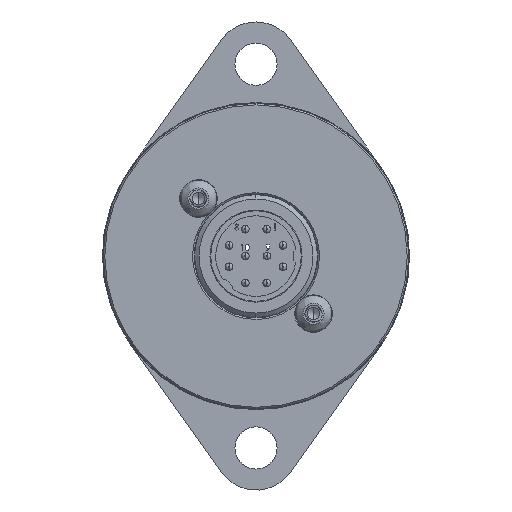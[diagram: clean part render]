
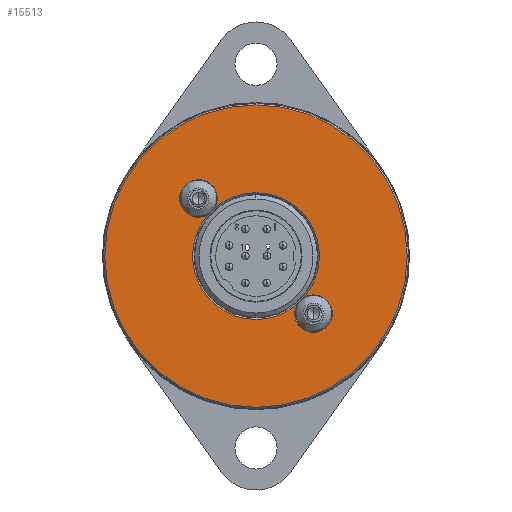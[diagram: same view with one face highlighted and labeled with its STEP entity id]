
A CAD part, front view. The second image highlights one B-rep face of the part: STEP entity #15513.
In plain terms, the highlighted planar face has unit normal (0, -1, 0).
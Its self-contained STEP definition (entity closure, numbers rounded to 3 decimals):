
#428 = CARTESIAN_POINT ( 'NONE',  ( -5.401, -177.613, 6.236 ) ) ;
#678 = ORIENTED_EDGE ( 'NONE', *, *, #11040, .F. ) ;
#1073 = AXIS2_PLACEMENT_3D ( 'NONE', #22959, #16575, #24372 ) ;
#1741 = EDGE_CURVE ( 'NONE', #20372, #18137, #21229, .T. ) ;
#1830 = DIRECTION ( 'NONE',  ( 0., 1., 0. ) ) ;
#1910 = DIRECTION ( 'NONE',  ( 0., 0., 1. ) ) ;
#3125 = CIRCLE ( 'NONE', #13014, 2.45 ) ;
#3166 = AXIS2_PLACEMENT_3D ( 'NONE', #5115, #20796, #18866 ) ;
#3192 = AXIS2_PLACEMENT_3D ( 'NONE', #15243, #11290, #24869 ) ;
#3905 = CARTESIAN_POINT ( 'NONE',  ( 0., -177.613, 0. ) ) ;
#4214 = CARTESIAN_POINT ( 'NONE',  ( 7.5, -177.613, -7.5 ) ) ;
#4444 = VERTEX_POINT ( 'NONE', #16945 ) ;
#4457 = EDGE_CURVE ( 'NONE', #13075, #12720, #8932, .T. ) ;
#4626 = DIRECTION ( 'NONE',  ( 0., 0., 1. ) ) ;
#4752 = CARTESIAN_POINT ( 'NONE',  ( -7.5, -177.613, 7.5 ) ) ;
#5012 = DIRECTION ( 'NONE',  ( 0., -1., 0. ) ) ;
#5115 = CARTESIAN_POINT ( 'NONE',  ( -8.05, -177.613, 0. ) ) ;
#5359 = EDGE_LOOP ( 'NONE', ( #17153, #5616, #15852, #22651, #20505, #7883, #16744, #6893, #11399, #678 ) ) ;
#5577 = EDGE_CURVE ( 'NONE', #22530, #21531, #7407, .T. ) ;
#5616 = ORIENTED_EDGE ( 'NONE', *, *, #15325, .T. ) ;
#5794 = CARTESIAN_POINT ( 'NONE',  ( 7.5, -177.613, -7.5 ) ) ;
#6070 = EDGE_CURVE ( 'NONE', #21531, #21922, #16548, .T. ) ;
#6144 = EDGE_LOOP ( 'NONE', ( #23673, #13749 ) ) ;
#6210 = VERTEX_POINT ( 'NONE', #19436 ) ;
#6476 = EDGE_CURVE ( 'NONE', #4444, #21922, #20596, .T. ) ;
#6893 = ORIENTED_EDGE ( 'NONE', *, *, #6070, .T. ) ;
#7407 = CIRCLE ( 'NONE', #20518, 8.25 ) ;
#7883 = ORIENTED_EDGE ( 'NONE', *, *, #16877, .F. ) ;
#7930 = AXIS2_PLACEMENT_3D ( 'NONE', #18352, #16050, #21940 ) ;
#8382 = AXIS2_PLACEMENT_3D ( 'NONE', #10837, #18669, #14298 ) ;
#8453 = AXIS2_PLACEMENT_3D ( 'NONE', #4752, #10678, #4626 ) ;
#8819 = VERTEX_POINT ( 'NONE', #20661 ) ;
#8932 = CIRCLE ( 'NONE', #3192, 2.45 ) ;
#9415 = CIRCLE ( 'NONE', #17220, 2.45 ) ;
#10105 = EDGE_CURVE ( 'NONE', #18137, #20372, #15000, .T. ) ;
#10678 = DIRECTION ( 'NONE',  ( 0., -1., 0. ) ) ;
#10695 = DIRECTION ( 'NONE',  ( 0., 0., 1. ) ) ;
#10837 = CARTESIAN_POINT ( 'NONE',  ( 0., -177.613, 0. ) ) ;
#11037 = FACE_BOUND ( 'NONE', #5359, .T. ) ;
#11040 = EDGE_CURVE ( 'NONE', #12720, #4444, #16655, .T. ) ;
#11214 = CARTESIAN_POINT ( 'NONE',  ( -7.5, -177.613, 7.5 ) ) ;
#11290 = DIRECTION ( 'NONE',  ( 0., -1., 0. ) ) ;
#11364 = EDGE_CURVE ( 'NONE', #8819, #24747, #3125, .T. ) ;
#11399 = ORIENTED_EDGE ( 'NONE', *, *, #6476, .F. ) ;
#12208 = CIRCLE ( 'NONE', #15460, 8.25 ) ;
#12720 = VERTEX_POINT ( 'NONE', #15294 ) ;
#12750 = CIRCLE ( 'NONE', #18455, 2.45 ) ;
#12860 = FACE_OUTER_BOUND ( 'NONE', #6144, .T. ) ;
#13014 = AXIS2_PLACEMENT_3D ( 'NONE', #4214, #23724, #17721 ) ;
#13075 = VERTEX_POINT ( 'NONE', #428 ) ;
#13205 = CARTESIAN_POINT ( 'NONE',  ( 0., -177.613, -8.25 ) ) ;
#13749 = ORIENTED_EDGE ( 'NONE', *, *, #10105, .T. ) ;
#14298 = DIRECTION ( 'NONE',  ( 0., 0., -1. ) ) ;
#14353 = CARTESIAN_POINT ( 'NONE',  ( 0., -177.613, 8.25 ) ) ;
#14545 = DIRECTION ( 'NONE',  ( 0., -1., 0. ) ) ;
#14752 = DIRECTION ( 'NONE',  ( 0., 1., 0. ) ) ;
#15000 = CIRCLE ( 'NONE', #8382, 19.7 ) ;
#15243 = CARTESIAN_POINT ( 'NONE',  ( -7.5, -177.613, 7.5 ) ) ;
#15294 = CARTESIAN_POINT ( 'NONE',  ( -7.5, -177.613, 9.95 ) ) ;
#15325 = EDGE_CURVE ( 'NONE', #13075, #24063, #12208, .T. ) ;
#15460 = AXIS2_PLACEMENT_3D ( 'NONE', #17723, #19785, #21580 ) ;
#15470 = DIRECTION ( 'NONE',  ( 0., 0., -1. ) ) ;
#15513 = ADVANCED_FACE ( 'NONE', ( #12860, #11037 ), #19127, .F. ) ;
#15852 = ORIENTED_EDGE ( 'NONE', *, *, #20250, .T. ) ;
#16050 = DIRECTION ( 'NONE',  ( 0., 1., 0. ) ) ;
#16225 = CARTESIAN_POINT ( 'NONE',  ( 5.401, -177.613, -6.236 ) ) ;
#16548 = CIRCLE ( 'NONE', #7930, 8.25 ) ;
#16575 = DIRECTION ( 'NONE',  ( 0., -1., 0. ) ) ;
#16655 = CIRCLE ( 'NONE', #8453, 2.45 ) ;
#16734 = DIRECTION ( 'NONE',  ( 0., 0., 1. ) ) ;
#16744 = ORIENTED_EDGE ( 'NONE', *, *, #5577, .T. ) ;
#16877 = EDGE_CURVE ( 'NONE', #22530, #6210, #12750, .T. ) ;
#16945 = CARTESIAN_POINT ( 'NONE',  ( -7.5, -177.613, 5.05 ) ) ;
#17153 = ORIENTED_EDGE ( 'NONE', *, *, #4457, .F. ) ;
#17220 = AXIS2_PLACEMENT_3D ( 'NONE', #20565, #5012, #16734 ) ;
#17721 = DIRECTION ( 'NONE',  ( 0., 0., 1. ) ) ;
#17723 = CARTESIAN_POINT ( 'NONE',  ( 0., -177.613, 0. ) ) ;
#18137 = VERTEX_POINT ( 'NONE', #20716 ) ;
#18352 = CARTESIAN_POINT ( 'NONE',  ( 0., -177.613, 0. ) ) ;
#18455 = AXIS2_PLACEMENT_3D ( 'NONE', #5794, #19532, #1910 ) ;
#18669 = DIRECTION ( 'NONE',  ( 0., -1., 0. ) ) ;
#18866 = DIRECTION ( 'NONE',  ( 0., 0., -1. ) ) ;
#18995 = DIRECTION ( 'NONE',  ( 0., 0., -1. ) ) ;
#19127 = PLANE ( 'NONE',  #3166 ) ;
#19436 = CARTESIAN_POINT ( 'NONE',  ( 7.5, -177.613, -9.95 ) ) ;
#19532 = DIRECTION ( 'NONE',  ( 0., -1., 0. ) ) ;
#19785 = DIRECTION ( 'NONE',  ( 0., 1., 0. ) ) ;
#20250 = EDGE_CURVE ( 'NONE', #24063, #24747, #22471, .T. ) ;
#20372 = VERTEX_POINT ( 'NONE', #23441 ) ;
#20505 = ORIENTED_EDGE ( 'NONE', *, *, #22033, .F. ) ;
#20518 = AXIS2_PLACEMENT_3D ( 'NONE', #3905, #1830, #15470 ) ;
#20565 = CARTESIAN_POINT ( 'NONE',  ( 7.5, -177.613, -7.5 ) ) ;
#20596 = CIRCLE ( 'NONE', #21020, 2.45 ) ;
#20661 = CARTESIAN_POINT ( 'NONE',  ( 7.5, -177.613, -5.05 ) ) ;
#20716 = CARTESIAN_POINT ( 'NONE',  ( 0., -177.613, 19.7 ) ) ;
#20796 = DIRECTION ( 'NONE',  ( 0., 1., 0. ) ) ;
#20977 = CARTESIAN_POINT ( 'NONE',  ( -6.236, -177.613, 5.401 ) ) ;
#21020 = AXIS2_PLACEMENT_3D ( 'NONE', #11214, #14545, #10695 ) ;
#21229 = CIRCLE ( 'NONE', #1073, 19.7 ) ;
#21531 = VERTEX_POINT ( 'NONE', #13205 ) ;
#21580 = DIRECTION ( 'NONE',  ( 0., 0., -1. ) ) ;
#21747 = CARTESIAN_POINT ( 'NONE',  ( 6.236, -177.613, -5.401 ) ) ;
#21922 = VERTEX_POINT ( 'NONE', #20977 ) ;
#21940 = DIRECTION ( 'NONE',  ( 0., 0., -1. ) ) ;
#22033 = EDGE_CURVE ( 'NONE', #6210, #8819, #9415, .T. ) ;
#22471 = CIRCLE ( 'NONE', #23666, 8.25 ) ;
#22530 = VERTEX_POINT ( 'NONE', #16225 ) ;
#22651 = ORIENTED_EDGE ( 'NONE', *, *, #11364, .F. ) ;
#22959 = CARTESIAN_POINT ( 'NONE',  ( 0., -177.613, 0. ) ) ;
#23441 = CARTESIAN_POINT ( 'NONE',  ( 0., -177.613, -19.7 ) ) ;
#23666 = AXIS2_PLACEMENT_3D ( 'NONE', #24873, #14752, #18995 ) ;
#23673 = ORIENTED_EDGE ( 'NONE', *, *, #1741, .T. ) ;
#23724 = DIRECTION ( 'NONE',  ( 0., -1., 0. ) ) ;
#24063 = VERTEX_POINT ( 'NONE', #14353 ) ;
#24372 = DIRECTION ( 'NONE',  ( 0., 0., -1. ) ) ;
#24747 = VERTEX_POINT ( 'NONE', #21747 ) ;
#24869 = DIRECTION ( 'NONE',  ( 0., 0., 1. ) ) ;
#24873 = CARTESIAN_POINT ( 'NONE',  ( 0., -177.613, 0. ) ) ;
